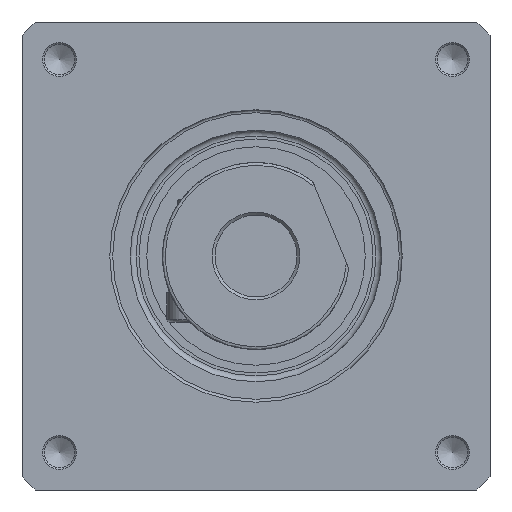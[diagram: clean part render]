
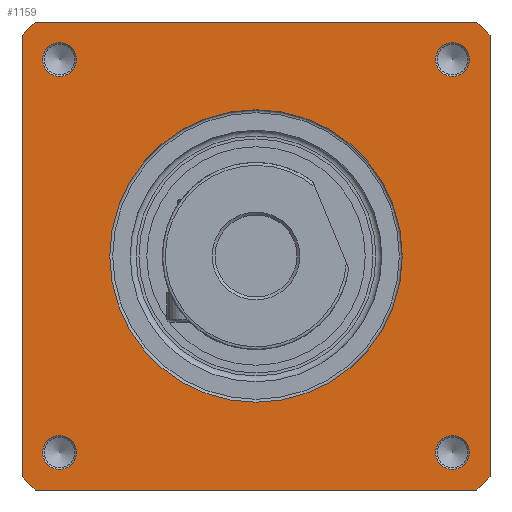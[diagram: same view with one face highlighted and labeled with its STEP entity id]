
A CAD part, front view. The second image highlights one B-rep face of the part: STEP entity #1159.
In plain terms, the highlighted planar face has unit normal (0, -1, 0) as drawn and (0, 0, 1) by its records, which use the part's own axes.
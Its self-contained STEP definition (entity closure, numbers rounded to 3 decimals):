
#468=PLANE('',#5416);
#718=FACE_BOUND('',#1849,.T.);
#719=FACE_BOUND('',#1850,.T.);
#720=FACE_BOUND('',#1851,.T.);
#721=FACE_BOUND('',#1852,.T.);
#722=FACE_BOUND('',#1853,.T.);
#723=FACE_BOUND('',#1854,.T.);
#1159=ADVANCED_FACE('',(#718,#719,#720,#721,#722,#723),#468,.T.);
#1849=EDGE_LOOP('',(#3569));
#1850=EDGE_LOOP('',(#3570));
#1851=EDGE_LOOP('',(#3571));
#1852=EDGE_LOOP('',(#3572));
#1853=EDGE_LOOP('',(#3573));
#1854=EDGE_LOOP('',(#3574,#3575,#3576,#3577,#3578,#3579,#3580,#3581));
#2198=LINE('',#8774,#2493);
#2199=LINE('',#8779,#2494);
#2200=LINE('',#8783,#2495);
#2201=LINE('',#8787,#2496);
#2493=VECTOR('',#6724,1.);
#2494=VECTOR('',#6727,1.);
#2495=VECTOR('',#6730,1.);
#2496=VECTOR('',#6733,1.);
#3569=ORIENTED_EDGE('',*,*,#4643,.F.);
#3570=ORIENTED_EDGE('',*,*,#4644,.F.);
#3571=ORIENTED_EDGE('',*,*,#4645,.F.);
#3572=ORIENTED_EDGE('',*,*,#4646,.F.);
#3573=ORIENTED_EDGE('',*,*,#4647,.F.);
#3574=ORIENTED_EDGE('',*,*,#4648,.T.);
#3575=ORIENTED_EDGE('',*,*,#4649,.F.);
#3576=ORIENTED_EDGE('',*,*,#4650,.T.);
#3577=ORIENTED_EDGE('',*,*,#4651,.F.);
#3578=ORIENTED_EDGE('',*,*,#4652,.F.);
#3579=ORIENTED_EDGE('',*,*,#4653,.F.);
#3580=ORIENTED_EDGE('',*,*,#4654,.F.);
#3581=ORIENTED_EDGE('',*,*,#4655,.F.);
#4063=VERTEX_POINT('',#8765);
#4064=VERTEX_POINT('',#8767);
#4065=VERTEX_POINT('',#8769);
#4066=VERTEX_POINT('',#8771);
#4067=VERTEX_POINT('',#8773);
#4068=VERTEX_POINT('',#8775);
#4069=VERTEX_POINT('',#8776);
#4070=VERTEX_POINT('',#8778);
#4071=VERTEX_POINT('',#8780);
#4072=VERTEX_POINT('',#8782);
#4073=VERTEX_POINT('',#8784);
#4074=VERTEX_POINT('',#8786);
#4075=VERTEX_POINT('',#8788);
#4643=EDGE_CURVE('',#4063,#4063,#4899,.T.);
#4644=EDGE_CURVE('',#4064,#4064,#4900,.T.);
#4645=EDGE_CURVE('',#4065,#4065,#4901,.T.);
#4646=EDGE_CURVE('',#4066,#4066,#4902,.T.);
#4647=EDGE_CURVE('',#4067,#4067,#4903,.T.);
#4648=EDGE_CURVE('',#4068,#4069,#2198,.T.);
#4649=EDGE_CURVE('',#4070,#4069,#4904,.T.);
#4650=EDGE_CURVE('',#4070,#4071,#2199,.T.);
#4651=EDGE_CURVE('',#4072,#4071,#4905,.T.);
#4652=EDGE_CURVE('',#4073,#4072,#2200,.T.);
#4653=EDGE_CURVE('',#4074,#4073,#4906,.T.);
#4654=EDGE_CURVE('',#4075,#4074,#2201,.T.);
#4655=EDGE_CURVE('',#4068,#4075,#4907,.T.);
#4899=CIRCLE('',#5407,2.9);
#4900=CIRCLE('',#5408,2.9);
#4901=CIRCLE('',#5409,2.9);
#4902=CIRCLE('',#5410,2.9);
#4903=CIRCLE('',#5411,25.);
#4904=CIRCLE('',#5412,55.);
#4905=CIRCLE('',#5413,55.);
#4906=CIRCLE('',#5414,55.);
#4907=CIRCLE('',#5415,55.);
#5407=AXIS2_PLACEMENT_3D('',#8764,#6714,#6715);
#5408=AXIS2_PLACEMENT_3D('',#8766,#6716,#6717);
#5409=AXIS2_PLACEMENT_3D('',#8768,#6718,#6719);
#5410=AXIS2_PLACEMENT_3D('',#8770,#6720,#6721);
#5411=AXIS2_PLACEMENT_3D('',#8772,#6722,#6723);
#5412=AXIS2_PLACEMENT_3D('',#8777,#6725,#6726);
#5413=AXIS2_PLACEMENT_3D('',#8781,#6728,#6729);
#5414=AXIS2_PLACEMENT_3D('',#8785,#6731,#6732);
#5415=AXIS2_PLACEMENT_3D('',#8789,#6734,#6735);
#5416=AXIS2_PLACEMENT_3D('',#8790,#6736,#6737);
#6714=DIRECTION('',(0.,0.,1.));
#6715=DIRECTION('',(1.,0.,0.));
#6716=DIRECTION('',(0.,0.,1.));
#6717=DIRECTION('',(1.,0.,0.));
#6718=DIRECTION('',(0.,0.,1.));
#6719=DIRECTION('',(1.,0.,0.));
#6720=DIRECTION('',(0.,0.,1.));
#6721=DIRECTION('',(1.,0.,0.));
#6722=DIRECTION('',(0.,0.,1.));
#6723=DIRECTION('',(1.,0.,0.));
#6724=DIRECTION('',(0.,1.,0.));
#6725=DIRECTION('',(0.,0.,-1.));
#6726=DIRECTION('',(1.,0.,0.));
#6727=DIRECTION('',(-1.,0.,0.));
#6728=DIRECTION('',(0.,0.,-1.));
#6729=DIRECTION('',(1.,0.,0.));
#6730=DIRECTION('',(0.,1.,0.));
#6731=DIRECTION('',(0.,0.,-1.));
#6732=DIRECTION('',(1.,0.,0.));
#6733=DIRECTION('',(-1.,0.,0.));
#6734=DIRECTION('',(0.,0.,-1.));
#6735=DIRECTION('',(1.,0.,0.));
#6736=DIRECTION('',(0.,0.,1.));
#6737=DIRECTION('',(1.,0.,0.));
#8764=CARTESIAN_POINT('',(-33.588,33.588,23.));
#8765=CARTESIAN_POINT('',(-30.688,33.588,23.));
#8766=CARTESIAN_POINT('',(-33.588,-33.588,23.));
#8767=CARTESIAN_POINT('',(-30.688,-33.588,23.));
#8768=CARTESIAN_POINT('',(33.587,33.587,23.));
#8769=CARTESIAN_POINT('',(36.487,33.587,23.));
#8770=CARTESIAN_POINT('',(33.588,-33.588,23.));
#8771=CARTESIAN_POINT('',(36.488,-33.588,23.));
#8772=CARTESIAN_POINT('',(0.,0.,23.));
#8773=CARTESIAN_POINT('',(25.,0.,23.));
#8774=CARTESIAN_POINT('',(40.,0.,23.));
#8775=CARTESIAN_POINT('',(40.,-37.749,23.));
#8776=CARTESIAN_POINT('',(40.,37.749,23.));
#8777=CARTESIAN_POINT('',(0.,0.,23.));
#8778=CARTESIAN_POINT('',(37.749,40.,23.));
#8779=CARTESIAN_POINT('',(0.,40.,23.));
#8780=CARTESIAN_POINT('',(-37.749,40.,23.));
#8781=CARTESIAN_POINT('',(0.,0.,23.));
#8782=CARTESIAN_POINT('',(-40.,37.749,23.));
#8783=CARTESIAN_POINT('',(-40.,0.,23.));
#8784=CARTESIAN_POINT('',(-40.,-37.749,23.));
#8785=CARTESIAN_POINT('',(0.,0.,23.));
#8786=CARTESIAN_POINT('',(-37.749,-40.,23.));
#8787=CARTESIAN_POINT('',(0.,-40.,23.));
#8788=CARTESIAN_POINT('',(37.749,-40.,23.));
#8789=CARTESIAN_POINT('',(0.,0.,23.));
#8790=CARTESIAN_POINT('',(0.,0.,23.));
